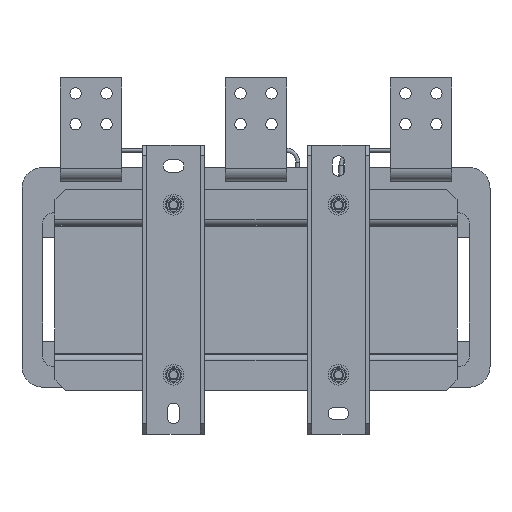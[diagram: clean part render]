
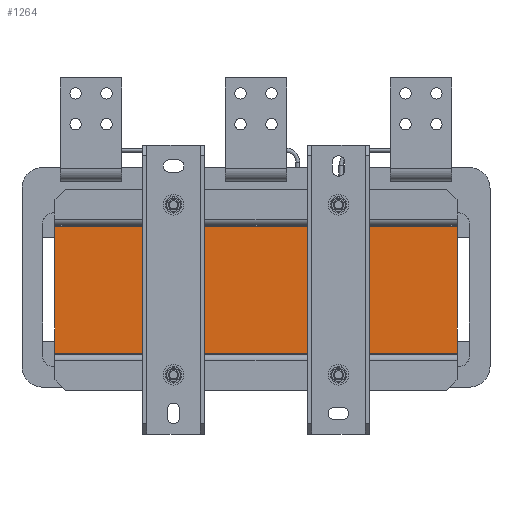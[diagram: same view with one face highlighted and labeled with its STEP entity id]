
A CAD part, front view. The second image highlights one B-rep face of the part: STEP entity #1264.
In plain terms, the highlighted planar face has unit normal (0, -1, 0).
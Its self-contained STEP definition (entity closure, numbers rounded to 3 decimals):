
#124 = EDGE_CURVE ( 'NONE', #35081, #36537, #9047, .T. ) ;
#1264 = ADVANCED_FACE ( 'NONE', ( #8422 ), #22384, .F. ) ;
#1694 = ORIENTED_EDGE ( 'NONE', *, *, #2416, .F. ) ;
#2289 = EDGE_LOOP ( 'NONE', ( #47207, #1694, #32392, #26332 ) ) ;
#2416 = EDGE_CURVE ( 'NONE', #36537, #35133, #41209, .T. ) ;
#4604 = DIRECTION ( 'NONE',  ( -1., 0., 0. ) ) ;
#4753 = DIRECTION ( 'NONE',  ( 0., 0., 1. ) ) ;
#4998 = CARTESIAN_POINT ( 'NONE',  ( 195., -210., 123. ) ) ;
#8422 = FACE_OUTER_BOUND ( 'NONE', #2289, .T. ) ;
#8541 = CARTESIAN_POINT ( 'NONE',  ( 195., -210., 0. ) ) ;
#9047 = LINE ( 'NONE', #27715, #34684 ) ;
#9082 = LINE ( 'NONE', #4998, #42387 ) ;
#18301 = VERTEX_POINT ( 'NONE', #8541 ) ;
#20990 = AXIS2_PLACEMENT_3D ( 'NONE', #29789, #44439, #4604 ) ;
#22384 = PLANE ( 'NONE',  #20990 ) ;
#23684 = LINE ( 'NONE', #34233, #29944 ) ;
#24571 = EDGE_CURVE ( 'NONE', #18301, #35133, #9082, .T. ) ;
#25684 = CARTESIAN_POINT ( 'NONE',  ( -195., -210., 123. ) ) ;
#26332 = ORIENTED_EDGE ( 'NONE', *, *, #40937, .T. ) ;
#27715 = CARTESIAN_POINT ( 'NONE',  ( -195., -210., 123. ) ) ;
#28055 = CARTESIAN_POINT ( 'NONE',  ( -195., -210., 123. ) ) ;
#29529 = CARTESIAN_POINT ( 'NONE',  ( -195., -210., 0. ) ) ;
#29789 = CARTESIAN_POINT ( 'NONE',  ( -195., -210., 123. ) ) ;
#29944 = VECTOR ( 'NONE', #38311, 1000. ) ;
#30199 = VECTOR ( 'NONE', #31085, 1000. ) ;
#31085 = DIRECTION ( 'NONE',  ( 1., 0., 0. ) ) ;
#32392 = ORIENTED_EDGE ( 'NONE', *, *, #124, .F. ) ;
#34233 = CARTESIAN_POINT ( 'NONE',  ( 0., -210., 0. ) ) ;
#34241 = DIRECTION ( 'NONE',  ( 0., 0., 1. ) ) ;
#34316 = CARTESIAN_POINT ( 'NONE',  ( 195., -210., 123. ) ) ;
#34684 = VECTOR ( 'NONE', #34241, 1000. ) ;
#35081 = VERTEX_POINT ( 'NONE', #29529 ) ;
#35133 = VERTEX_POINT ( 'NONE', #34316 ) ;
#36537 = VERTEX_POINT ( 'NONE', #28055 ) ;
#38311 = DIRECTION ( 'NONE',  ( 1., 0., 0. ) ) ;
#40937 = EDGE_CURVE ( 'NONE', #35081, #18301, #23684, .T. ) ;
#41209 = LINE ( 'NONE', #25684, #30199 ) ;
#42387 = VECTOR ( 'NONE', #4753, 1000. ) ;
#44439 = DIRECTION ( 'NONE',  ( 0., 1., 0. ) ) ;
#47207 = ORIENTED_EDGE ( 'NONE', *, *, #24571, .T. ) ;
